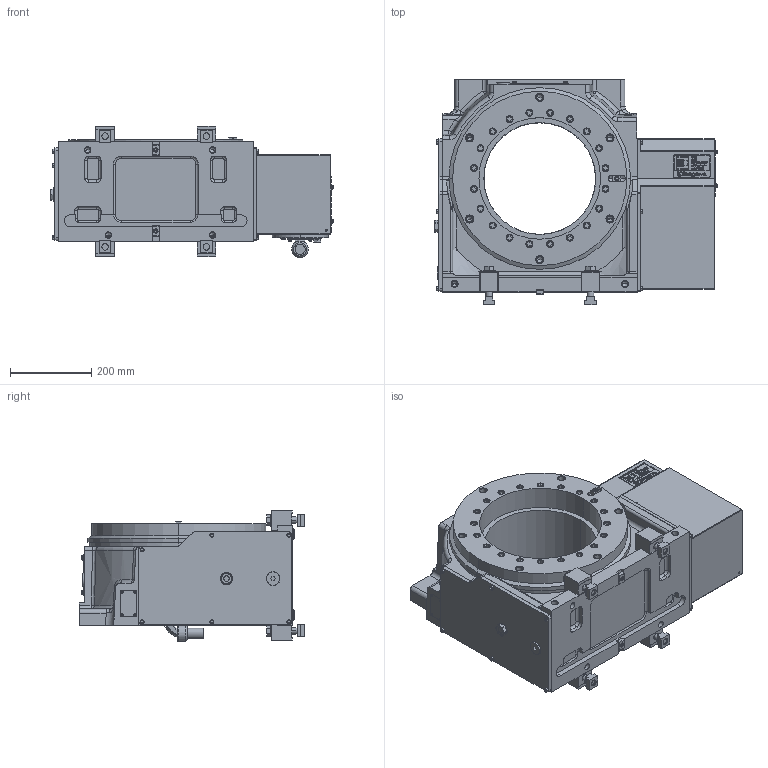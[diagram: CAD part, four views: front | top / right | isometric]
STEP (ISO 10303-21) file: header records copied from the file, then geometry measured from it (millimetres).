
FILE_DESCRIPTION (( 'STEP AP214' ), '1' );
FILE_NAME ('TP430RHV.STEP', '2020-03-26T08:39:52', ( '' ), ( '' ), 'SwSTEP 2.0', 'SolidWorks 2017', '' );
FILE_SCHEMA (( 'AUTOMOTIVE_DESIGN' ));
Length unit declared in the file: millimetre
Products named in the file (13): KQ2E06-01; 僇僶乕丂俹(61E4458433)MR250RAM01; モータケース(61E2781461)TP430RHV00; ガイドブロック(61M4197783); TP430RH00僋儈僞僥(61E502601); テーブル(61E8349391)TP430RH00; 儂儞僞僀ASSY(61E1147572)TP430RH00; TP430RHV; CLAMPING PARTS(61E430706)結合; TP430RHV00儂儞僞僀; 働乕僽儖N29ZSZ2562; コネクタプレート(61E4479762)TRX320B20; キタガワシール
Assembly tree (16 placements, depth 4):
  TP430RHV
    TP430RHV00儂儞僞僀
      TP430RH00僋儈僞僥(61E502601)
        儂儞僞僀ASSY(61E1147572)TP430RH00
        テーブル(61E8349391)TP430RH00
      ガイドブロック(61M4197783)  x2
      モータケース(61E2781461)TP430RHV00
      僇僶乕丂俹(61E4458433)MR250RAM01
      KQ2E06-01
      キタガワシール
      コネクタプレート(61E4479762)TRX320B20
      働乕僽儖N29ZSZ2562
    CLAMPING PARTS(61E430706)結合  x4
Bounding box: 696.7 x 556 x 323.4 mm (x, y, z)
Volume: 18039564.3 mm3; surface area: 2264157.8 mm2
Topology: 13 solids, 17 shells, 3570 faces, 9105 edges, 5849 vertices
Faces by surface type: plane 2416, cylinder 691, cone 302, torus 127, bspline 25, sphere 9
Entity records: 118694 total; most frequent: CARTESIAN_POINT 19464, ORIENTED_EDGE 17166, DIRECTION 17034, EDGE_CURVE 8587, LINE 6706, VECTOR 6706, VERTEX_POINT 5573, AXIS2_PLACEMENT_3D 5164
